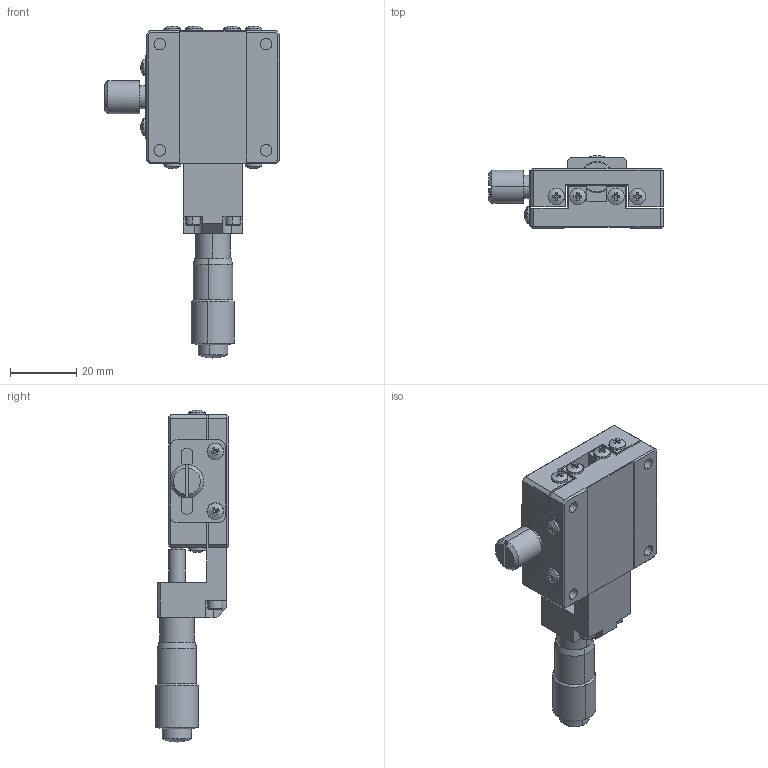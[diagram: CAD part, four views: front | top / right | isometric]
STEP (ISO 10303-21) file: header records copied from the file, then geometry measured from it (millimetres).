
FILE_DESCRIPTION (( 'STEP AP203' ), '1' );
FILE_NAME ('LX40-C.STEP', '2013-07-08T12:15:59', ( 'pengyu' ), ( '' ), 'SwSTEP 2.0', 'SolidWorks 2011', '' );
FILE_SCHEMA (( 'CONFIG_CONTROL_DESIGN' ));
Length unit declared in the file: millimetre
Products named in the file (4): LX40-C; MT13-3-1; L40C-2; L40C-1
Assembly tree (3 placements, depth 2):
  LX40-C
    L40C-2
    MT13-3-1
    L40C-1
Bounding box: 52.6 x 21.99 x 99.95 mm (x, y, z)
Volume: 34446.6 mm3; surface area: 18419.7 mm2
Topology: 3 solids, 6 shells, 541 faces, 1370 edges, 843 vertices
Faces by surface type: plane 302, cone 112, cylinder 105, bspline 18, torus 4
Entity records: 16917 total; most frequent: CARTESIAN_POINT 3719, DIRECTION 2695, ORIENTED_EDGE 2654, EDGE_CURVE 1327, AXIS2_PLACEMENT_3D 1024, VERTEX_POINT 842, VECTOR 647, LINE 647
